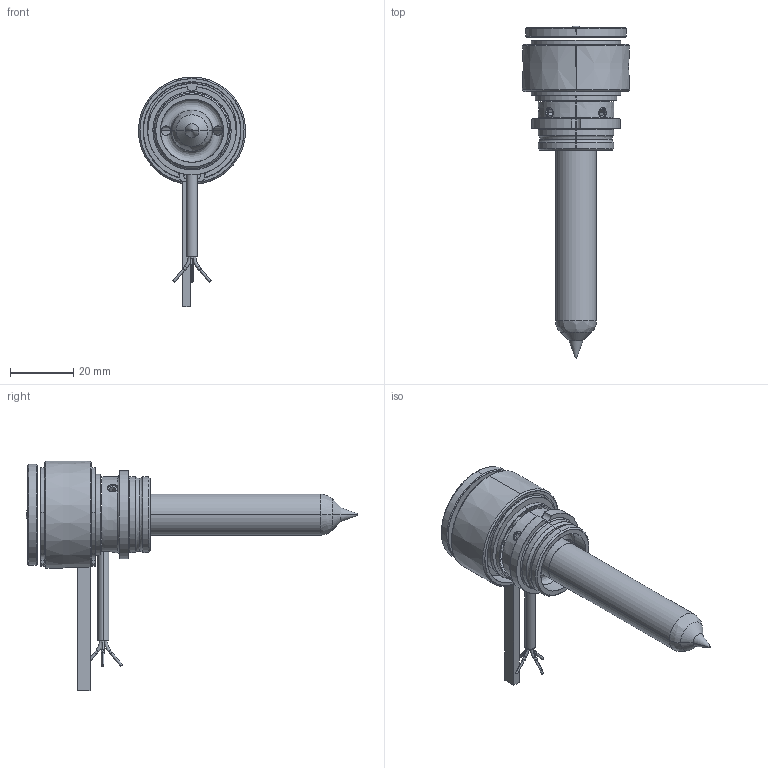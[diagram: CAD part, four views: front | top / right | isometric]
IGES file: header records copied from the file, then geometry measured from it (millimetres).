
Start section: SolidWorks IGES file using analytic representation for surfaces
Global section: file name: C:\Documents and Settings\ws-20\Desktop\TEM\UGGS2540-S-0 [Øf-0.47].IGS; native system: SolidWorks 2012; preprocessor: SolidWorks 2012; author: ws-20; date: 120516.093422; units: millimetre
Bounding box: 34 x 105.3 x 72.9 mm (x, y, z)
Surface area: 16805.6 mm2 (no closed solid volume)
Topology: 0 solids, 0 shells, 207 faces, 2969 edges, 2963 vertices
Faces by surface type: revolution 129, bspline 78
